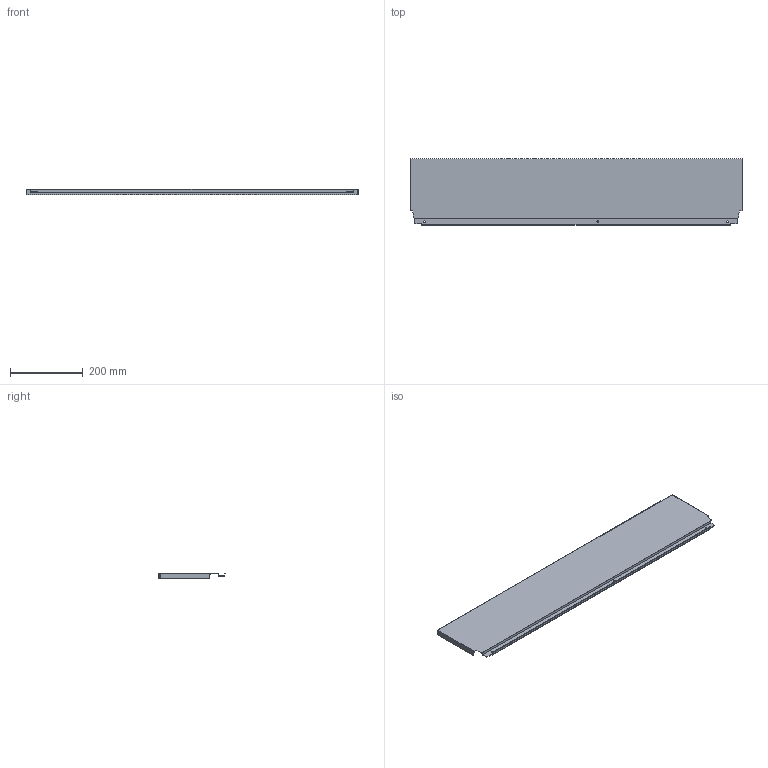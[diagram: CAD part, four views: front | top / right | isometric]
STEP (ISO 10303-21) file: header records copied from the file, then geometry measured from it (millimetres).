
FILE_DESCRIPTION (( 'STEP AP214' ), '1' );
FILE_NAME ('_DWD_XP Stahlrückwand_H182_KAB1000_S17.step', '2010-07-08T12:57:49', ( 'grass' ), ( '' ), 'SwSTEP 2.0', 'SolidWorks 2010', '' );
FILE_SCHEMA (( 'AUTOMOTIVE_DESIGN' ));
Length unit declared in the file: millimetre
Products named in the file (1): _DWD_XP Stahlrückwand_H182_KAB1000_S17
Bounding box: 915 x 182.49 x 16 mm (x, y, z)
Volume: 171482.9 mm3; surface area: 396296 mm2
Topology: 1 solids, 1 shells, 46 faces, 132 edges, 88 vertices
Faces by surface type: plane 40, cylinder 6
Entity records: 1534 total; most frequent: CARTESIAN_POINT 267, ORIENTED_EDGE 264, DIRECTION 238, EDGE_CURVE 132, VECTOR 120, LINE 120, VERTEX_POINT 88, AXIS2_PLACEMENT_3D 59
